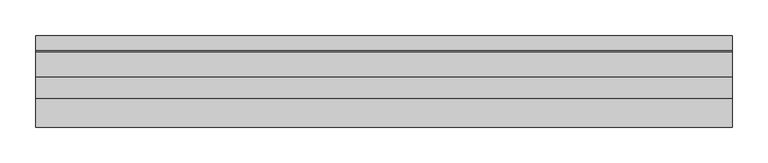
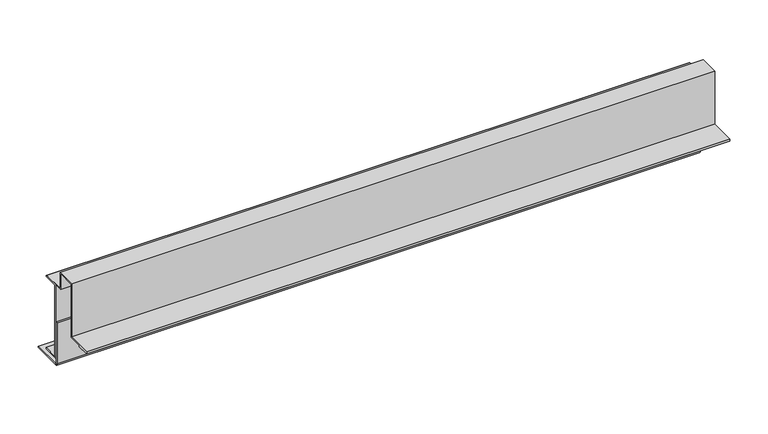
"""IFC4 building model written with IfcOpenShell, lengths in millimetres: proxy geometry, АК7_1 верх Обрамление оконного_дверного проема : АК7_1 верх Обрамление оконного_дверного проема."""

import ifcopenshell
import ifcopenshell.guid

model = None  # the IFC model being written
_history = None  # IfcOwnerHistory: only IFC2X3 demands one
_inside = {}  # id of a spatial element -> (the spatial element, [elements in it])
_under = {}  # id of a project, library or spatial element -> (it, [spatial elements below it])
_declared = {}  # id of a project -> (the project, [libraries it declares])
_typed = {}  # id of a type object -> (the type object, [elements of that type])
_made_of = {}  # id of a material, layer set ... -> (it, [elements and type objects made of it])


def new_model(schema):
    """Start an empty IFC model of exactly this schema.

    Asked for "IFC4X3", IfcOpenShell would pick the latest addendum, in which some entities
    have other attributes; the version numbers below select the first issue.
    IFC2X3 requires an IfcOwnerHistory on every rooted entity: one is made here for all.
    """
    global model, _history
    if schema == "IFC4X3":
        model = ifcopenshell.file(schema_version=(4, 3, 0, 0))
    else:
        model = ifcopenshell.file(schema=schema)
    _inside.clear()
    _under.clear()
    _declared.clear()
    _typed.clear()
    _made_of.clear()
    _history = None
    if model.schema == "IFC2X3":
        org = make("IfcOrganization", Name="unknown")
        user = make(
            "IfcPersonAndOrganization",
            ThePerson=make("IfcPerson", FamilyName="unknown"),
            TheOrganization=org,
        )
        app = make(
            "IfcApplication",
            ApplicationDeveloper=org,
            Version="unknown",
            ApplicationFullName="unknown",
            ApplicationIdentifier="unknown",
        )
        _history = make(
            "IfcOwnerHistory",
            OwningUser=user,
            OwningApplication=app,
            ChangeAction="ADDED",
            CreationDate=0,
        )
    return model


def make(cls, **values):
    """One entity of the class cls with the attributes given. An attribute that is None is left unset."""
    return model.create_entity(
        cls, **{name: value for name, value in values.items() if value is not None}
    )


def rooted(cls, **values):
    """An entity with a GlobalId (a new one), such as an element, a storey or a relation."""
    return make(cls, GlobalId=ifcopenshell.guid.new(), OwnerHistory=_history, **values)


def si_unit(unit_type, name, prefix=None):
    """IfcSIUnit, for example si_unit("LENGTHUNIT", "METRE", prefix="MILLI")."""
    return make("IfcSIUnit", UnitType=unit_type, Prefix=prefix, Name=name)


def assignment(units):
    """IfcUnitAssignment: the units of a project."""
    return None if units is None else make("IfcUnitAssignment", Units=units)


def point(xyz):
    """IfcCartesianPoint."""
    return None if xyz is None else make("IfcCartesianPoint", Coordinates=xyz)


def direction(xyz):
    """IfcDirection."""
    return None if xyz is None else make("IfcDirection", DirectionRatios=xyz)


def frame(location, z_axis=None, x_axis=None):
    """IfcAxis2Placement3D, a coordinate frame: its origin and axes. An axis left out is left unset."""
    return make(
        "IfcAxis2Placement3D",
        Location=point(location),
        Axis=direction(z_axis),
        RefDirection=direction(x_axis),
    )


def frame_2d(location, x_axis=None):
    """IfcAxis2Placement2D, a coordinate frame in the plane: its origin and x axis."""
    return make(
        "IfcAxis2Placement2D", Location=point(location), RefDirection=direction(x_axis)
    )


def origin():
    """The frame at (0, 0, 0) with its axes left unset."""
    return frame((0.0, 0.0, 0.0))


def place(relative_to, where):
    """IfcLocalPlacement: puts the frame where relative to a parent placement (None: the world)."""
    return make(
        "IfcLocalPlacement", PlacementRelTo=relative_to, RelativePlacement=where
    )


def context(
    kind, dimensions, precision=None, world=None, true_north=None, identifier=None
):
    """IfcGeometricRepresentationContext, for example the 3D "Model" context."""
    return make(
        "IfcGeometricRepresentationContext",
        ContextIdentifier=identifier,
        ContextType=kind,
        CoordinateSpaceDimension=dimensions,
        Precision=precision,
        WorldCoordinateSystem=world,
        TrueNorth=true_north,
    )


def project(units=None, contexts=None):
    """IfcProject with its units and contexts."""
    return rooted(
        "IfcProject",
        Name="project",
        RepresentationContexts=contexts,
        UnitsInContext=assignment(units),
    )


def spatial(cls, under=None, at=None, **own):
    """A site, building, storey or space (cls), placed at a placement, below another one or the project."""
    s = rooted(cls, ObjectPlacement=at, **own)
    if under is not None:
        _under.setdefault(under.id(), (under, []))[1].append(s)
    return s


def polyline(points):
    """IfcPolyline through the points."""
    return make("IfcPolyline", Points=[point(p) for p in points])


def circle_curve(where, radius):
    """IfcCircle in the frame where."""
    return make("IfcCircle", Position=where, Radius=radius)


def trimmed(basis, trim1, trim2, sense, master):
    """IfcTrimmedCurve: the piece of a basis curve between two trims."""
    return make(
        "IfcTrimmedCurve",
        BasisCurve=basis,
        Trim1=trim1,
        Trim2=trim2,
        SenseAgreement=sense,
        MasterRepresentation=master,
    )


def segment(curve, same_sense, transition):
    """IfcCompositeCurveSegment."""
    return make(
        "IfcCompositeCurveSegment",
        Transition=transition,
        SameSense=same_sense,
        ParentCurve=curve,
    )


def composite_curve(segments, self_intersect=None):
    """IfcCompositeCurve: segments joined end to end."""
    return make("IfcCompositeCurve", Segments=segments, SelfIntersect=self_intersect)


def outline(outer, holes=None, kind="AREA"):
    """IfcArbitraryClosedProfileDef: a profile drawn as a closed curve; with holes, ...WithVoids."""
    if holes is None:
        return make("IfcArbitraryClosedProfileDef", ProfileType=kind, OuterCurve=outer)
    return make(
        "IfcArbitraryProfileDefWithVoids",
        ProfileType=kind,
        OuterCurve=outer,
        InnerCurves=holes,
    )


def extrude(swept, where, along, depth):
    """IfcExtrudedAreaSolid: the profile swept, set in the frame where, extruded along a direction by depth."""
    return make(
        "IfcExtrudedAreaSolid",
        SweptArea=swept,
        Position=where,
        ExtrudedDirection=direction(along),
        Depth=depth,
    )


def shape(context_of_items, identifier, shape_type, items):
    """IfcShapeRepresentation: the items that make up one representation, for example the "Body"."""
    return make(
        "IfcShapeRepresentation",
        ContextOfItems=context_of_items,
        RepresentationIdentifier=identifier,
        RepresentationType=shape_type,
        Items=items,
    )


def source(mapping_origin, context_of_items, identifier, shape_type, items):
    """IfcRepresentationMap: a shape defined once, which mapped items show again and again."""
    return make(
        "IfcRepresentationMap",
        MappingOrigin=mapping_origin,
        MappedRepresentation=shape(context_of_items, identifier, shape_type, items),
    )


def transform(
    local_origin,
    x_axis=None,
    y_axis=None,
    z_axis=None,
    scale=None,
    scale2=None,
    scale3=None,
    uniform=True,
):
    """IfcCartesianTransformationOperator3D, or its non-uniform kind. x_axis, y_axis, z_axis: its Axis1, 2, 3."""
    if uniform:
        return make(
            "IfcCartesianTransformationOperator3D",
            Axis1=direction(x_axis),
            Axis2=direction(y_axis),
            LocalOrigin=point(local_origin),
            Scale=scale,
            Axis3=direction(z_axis),
        )
    return make(
        "IfcCartesianTransformationOperator3DnonUniform",
        Axis1=direction(x_axis),
        Axis2=direction(y_axis),
        LocalOrigin=point(local_origin),
        Scale=scale,
        Axis3=direction(z_axis),
        Scale2=scale2,
        Scale3=scale3,
    )


def mapped(mapping_source, mapping_target):
    """IfcMappedItem: shows the shape of a source again, moved by a transform."""
    return make(
        "IfcMappedItem", MappingSource=mapping_source, MappingTarget=mapping_target
    )


def made_of(thing, what):
    """Note that an element or type object is made of a material, layer set ...; save() writes the relation."""
    if what is not None:
        _made_of.setdefault(what.id(), (what, []))[1].append(thing)
    return thing


def element(
    cls,
    number,
    at=None,
    inside=None,
    cuts=None,
    type_object=None,
    material=None,
    context=None,
    identifier="Body",
    shape_type=None,
    held_by="IfcProductDefinitionShape",
    body=None,
    shapes=None,
    **own,
):
    """One element of the class cls, such as IfcWall. Its Tag is "e" and its number.

    at: its placement. inside: the storey or other place that contains it. cuts: it is an
    opening in that element (IfcRelVoidsElement). A single representation is given by context,
    identifier, shape_type and body (its items); several are given by shapes. held_by: the class
    of the entity that holds the representations. save() writes the other relations.
    """
    e = rooted(cls, Tag="e%d" % number, ObjectPlacement=at, **own)
    if body is not None:
        shapes = [shape(context, identifier, shape_type, body)]
    if shapes is not None:
        e.Representation = make(held_by, Representations=shapes)
    if inside is not None:
        _inside.setdefault(inside.id(), (inside, []))[1].append(e)
    if cuts is not None:
        rooted(
            "IfcRelVoidsElement", RelatingBuildingElement=cuts, RelatedOpeningElement=e
        )
    if type_object is not None:
        _typed.setdefault(type_object.id(), (type_object, []))[1].append(e)
    return made_of(e, material)


def aggregate(whole, parts):
    """IfcRelAggregates: a whole, such as a stair, and the parts it consists of."""
    return rooted("IfcRelAggregates", RelatingObject=whole, RelatedObjects=parts)


def save(model, path):
    """Write the relations noted so far, then the file.

    IfcRelAggregates (storeys below a building ...), IfcRelContainedInSpatialStructure (elements
    in a storey), IfcRelDefinesByType, IfcRelAssociatesMaterial and IfcRelDeclares: one each for
    every whole, place, type object, material and project.
    """
    for whole, parts in _under.values():
        aggregate(whole, parts)
    for where, things in _inside.values():
        rooted(
            "IfcRelContainedInSpatialStructure",
            RelatedElements=things,
            RelatingStructure=where,
        )
    for kind, things in _typed.values():
        rooted("IfcRelDefinesByType", RelatedObjects=things, RelatingType=kind)
    for what, things in _made_of.values():
        rooted("IfcRelAssociatesMaterial", RelatedObjects=things, RelatingMaterial=what)
    for by, libraries in _declared.values():
        rooted("IfcRelDeclares", RelatingContext=by, RelatedDefinitions=libraries)
    model.write(path)


def generic_models_694dab97(model_context):
    return source(origin(), model_context, "Body", "SweptSolid", [
        extrude(outline(composite_curve([segment(polyline([(29.8704378, -153.0), (29.8704378, -155.0), (-16.1295622, -155.0)]), True, "CONTINUOUS"), segment(trimmed(circle_curve(frame_2d((-16.1295622, -151.0)), 4.0), [point((-16.1295622, -155.0))], [point((-20.1295622, -151.0))], False, "CARTESIAN"), True, "CONTINUOUS"), segment(polyline([(-20.1295622, -151.0), (-20.1295622, -85.0), (-18.1295622, -85.0), (-18.1295622, -151.0)]), True, "CONTINUOUS"), segment(trimmed(circle_curve(frame_2d((-16.1295622, -151.0)), 2.0), [point((-18.1295622, -151.0))], [point((-16.1295622, -153.0))], True, "CARTESIAN"), True, "CONTINUOUS"), segment(polyline([(-16.1295622, -153.0), (29.8704378, -153.0)]), True, "CONTINUOUS")], self_intersect=False)), frame((0.0, 0.0, 0.0), z_axis=(1.0, 0.0, 0.0), x_axis=(0.0, 1.0, 0.0)), (0.0, 0.0, 1.0), 974.999691),
        extrude(outline(polyline([(-16.1295622, -26.5), (8.8704378, -26.5), (8.8704378, -28.5), (-14.1295622, -28.5), (-14.1295622, -142.5), (8.8704378, -142.5), (8.8704378, -144.5), (-16.1295622, -144.5), (-16.1295622, -26.5)])), frame((0.0, 0.0, 0.0), z_axis=(1.0, 0.0, 0.0), x_axis=(0.0, 1.0, 0.0)), (0.0, 0.0, 1.0), 974.999691),
        extrude(outline(polyline([(6.9998693, -25.4999617), (6.9998693, -26.4999617), (-29.0001307, -26.4999617), (-29.0001307, -0.9999617), (-57.0001307, -0.9999617), (-57.0001307, -86.0), (-97.0001307, -86.0), (-97.0001307, -87.0000383), (-78.6125377, -87.0000383), (-78.6125377, -88.0000383), (-98.0001307, -88.0000383), (-98.0001307, -85.0), (-58.0001307, -85.0), (-58.0001307, 3.83e-05), (-28.0001307, 3.83e-05), (-28.0001307, -25.4999617), (6.9998693, -25.4999617)])), frame((0.0, 0.0, 0.0), z_axis=(1.0, 0.0, 0.0), x_axis=(0.0, 1.0, 0.0)), (0.0, 0.0, 1.0), 974.999691),
    ])


if __name__ == "__main__":
    model = new_model("IFC4")
    model_context = context("Model", 3, world=origin())
    ifc_project = project(units=[si_unit("LENGTHUNIT", "METRE", prefix="MILLI")], contexts=[model_context])
    site = spatial("IfcSite", under=ifc_project)
    building = spatial("IfcBuilding", under=site)
    placement = place(None, origin())
    generic_models_shape = generic_models_694dab97(model_context)
    element("IfcBuildingElementProxy", 1, Name="АК7_1 верх Обрамление оконного_дверного проема : АК7_1 верх Обрамление оконного_дверного проема", ObjectType="АК7_1 верх Обрамление оконного_дверного проема : АК7_1 верх Обрамление оконного_дверного проема", at=placement, inside=building, context=model_context, shape_type="MappedRepresentation", body=[
        mapped(generic_models_shape, transform((0.0, 0.0, 0.0), x_axis=(1.0, 0.0, 0.0), y_axis=(0.0, 1.0, 0.0), z_axis=(0.0, 0.0, 1.0))),
    ])
    save(model, "model.ifc")
